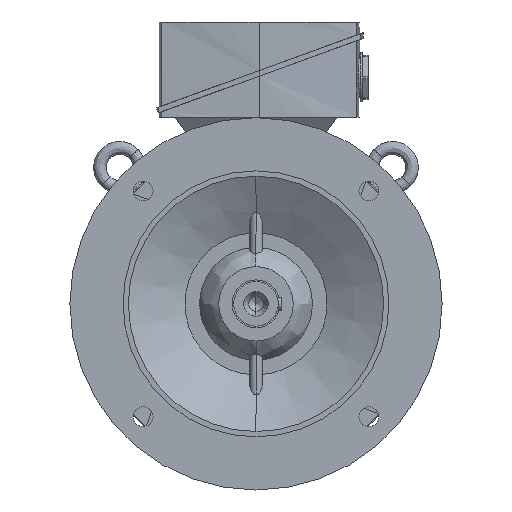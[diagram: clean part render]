
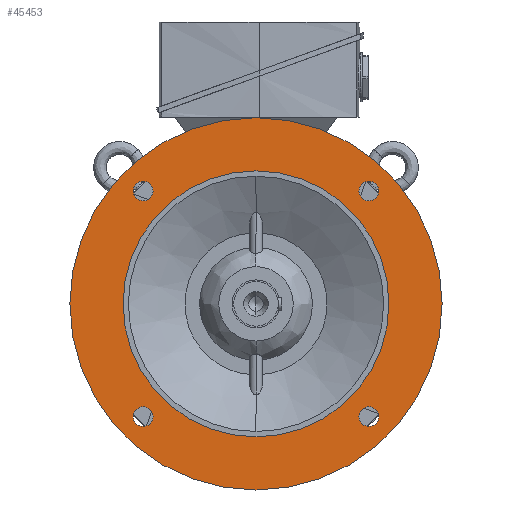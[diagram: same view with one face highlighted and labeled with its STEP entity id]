
A CAD part, left-side view. The second image highlights one B-rep face of the part: STEP entity #45453.
In plain terms, the highlighted planar face has unit normal (-1, 0, 0).
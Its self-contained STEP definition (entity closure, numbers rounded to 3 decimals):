
#351 = EDGE_CURVE ( 'NONE', #6225, #6126, #20072, .T. ) ;
#481 = CARTESIAN_POINT ( 'NONE',  ( -80., 0., -125. ) ) ;
#595 = CARTESIAN_POINT ( 'NONE',  ( -80., 106.066, -106.066 ) ) ;
#882 = CARTESIAN_POINT ( 'NONE',  ( -80., 106.066, -115.316 ) ) ;
#1395 = EDGE_CURVE ( 'NONE', #20599, #29597, #19231, .T. ) ;
#1500 = DIRECTION ( 'NONE',  ( 1., 0., 0. ) ) ;
#1692 = CIRCLE ( 'NONE', #42419, 175. ) ;
#2084 = DIRECTION ( 'NONE',  ( 0., 0., -1. ) ) ;
#2519 = AXIS2_PLACEMENT_3D ( 'NONE', #29867, #29854, #29802 ) ;
#3247 = CARTESIAN_POINT ( 'NONE',  ( -80., 106.066, 96.816 ) ) ;
#3438 = CARTESIAN_POINT ( 'NONE',  ( -80., -106.066, 106.066 ) ) ;
#4192 = DIRECTION ( 'NONE',  ( 1., 0., 0. ) ) ;
#4925 = DIRECTION ( 'NONE',  ( 0., 0., -1. ) ) ;
#6083 = AXIS2_PLACEMENT_3D ( 'NONE', #16109, #16222, #16277 ) ;
#6126 = VERTEX_POINT ( 'NONE', #41562 ) ;
#6146 = EDGE_CURVE ( 'NONE', #30766, #10946, #43114, .T. ) ;
#6225 = VERTEX_POINT ( 'NONE', #33467 ) ;
#6291 = ORIENTED_EDGE ( 'NONE', *, *, #43487, .T. ) ;
#6528 = EDGE_LOOP ( 'NONE', ( #6291, #6894 ) ) ;
#6894 = ORIENTED_EDGE ( 'NONE', *, *, #1395, .T. ) ;
#6948 = ORIENTED_EDGE ( 'NONE', *, *, #41497, .F. ) ;
#7116 = DIRECTION ( 'NONE',  ( 0., 0., 1. ) ) ;
#7133 = DIRECTION ( 'NONE',  ( -1., 0., 0. ) ) ;
#7184 = CARTESIAN_POINT ( 'NONE',  ( -80., 150., 0. ) ) ;
#7637 = ORIENTED_EDGE ( 'NONE', *, *, #351, .F. ) ;
#7723 = ORIENTED_EDGE ( 'NONE', *, *, #12783, .T. ) ;
#7793 = PLANE ( 'NONE',  #19870 ) ;
#8078 = ORIENTED_EDGE ( 'NONE', *, *, #44666, .T. ) ;
#8122 = ORIENTED_EDGE ( 'NONE', *, *, #25081, .T. ) ;
#8167 = ORIENTED_EDGE ( 'NONE', *, *, #24874, .T. ) ;
#8314 = FACE_BOUND ( 'NONE', #15696, .T. ) ;
#8361 = ORIENTED_EDGE ( 'NONE', *, *, #47530, .T. ) ;
#8406 = ORIENTED_EDGE ( 'NONE', *, *, #36170, .T. ) ;
#8425 = FACE_BOUND ( 'NONE', #30265, .T. ) ;
#8502 = FACE_BOUND ( 'NONE', #35381, .T. ) ;
#8688 = FACE_BOUND ( 'NONE', #8770, .T. ) ;
#8725 = FACE_BOUND ( 'NONE', #6528, .T. ) ;
#8770 = EDGE_LOOP ( 'NONE', ( #7723, #8078 ) ) ;
#8921 = ORIENTED_EDGE ( 'NONE', *, *, #13198, .T. ) ;
#9059 = ORIENTED_EDGE ( 'NONE', *, *, #6146, .T. ) ;
#9985 = FACE_OUTER_BOUND ( 'NONE', #22682, .T. ) ;
#10946 = VERTEX_POINT ( 'NONE', #17147 ) ;
#12783 = EDGE_CURVE ( 'NONE', #13188, #38205, #42479, .T. ) ;
#13188 = VERTEX_POINT ( 'NONE', #35049 ) ;
#13198 = EDGE_CURVE ( 'NONE', #10946, #30766, #40088, .T. ) ;
#13861 = CIRCLE ( 'NONE', #42071, 9.25 ) ;
#15696 = EDGE_LOOP ( 'NONE', ( #8921, #9059 ) ) ;
#16109 = CARTESIAN_POINT ( 'NONE',  ( -80., 106.066, -106.066 ) ) ;
#16222 = DIRECTION ( 'NONE',  ( 1., 0., 0. ) ) ;
#16277 = DIRECTION ( 'NONE',  ( 0., 0., -1. ) ) ;
#16345 = CIRCLE ( 'NONE', #42430, 9.25 ) ;
#16842 = AXIS2_PLACEMENT_3D ( 'NONE', #595, #1500, #2084 ) ;
#17147 = CARTESIAN_POINT ( 'NONE',  ( -80., -106.066, -115.316 ) ) ;
#18013 = CARTESIAN_POINT ( 'NONE',  ( -80., 0., 125. ) ) ;
#18255 = VERTEX_POINT ( 'NONE', #18369 ) ;
#18369 = CARTESIAN_POINT ( 'NONE',  ( -80., 106.066, -96.816 ) ) ;
#19231 = CIRCLE ( 'NONE', #2519, 125. ) ;
#19870 = AXIS2_PLACEMENT_3D ( 'NONE', #7184, #7133, #7116 ) ;
#20072 = CIRCLE ( 'NONE', #46675, 175. ) ;
#20526 = CARTESIAN_POINT ( 'NONE',  ( -80., 106.066, 106.066 ) ) ;
#20599 = VERTEX_POINT ( 'NONE', #481 ) ;
#20645 = DIRECTION ( 'NONE',  ( 1., 0., 0. ) ) ;
#20689 = DIRECTION ( 'NONE',  ( 0., 0., -1. ) ) ;
#22007 = VERTEX_POINT ( 'NONE', #37912 ) ;
#22682 = EDGE_LOOP ( 'NONE', ( #6948, #7637 ) ) ;
#23812 = AXIS2_PLACEMENT_3D ( 'NONE', #3438, #4192, #4925 ) ;
#23997 = DIRECTION ( 'NONE',  ( 1., 0., 0. ) ) ;
#24051 = CARTESIAN_POINT ( 'NONE',  ( -80., -106.066, 106.066 ) ) ;
#24197 = DIRECTION ( 'NONE',  ( 0., 0., -1. ) ) ;
#24458 = AXIS2_PLACEMENT_3D ( 'NONE', #34476, #34428, #34322 ) ;
#24874 = EDGE_CURVE ( 'NONE', #22007, #46283, #16345, .T. ) ;
#25081 = EDGE_CURVE ( 'NONE', #46283, #22007, #13861, .T. ) ;
#25107 = CIRCLE ( 'NONE', #6083, 9.25 ) ;
#28611 = AXIS2_PLACEMENT_3D ( 'NONE', #24051, #23997, #24197 ) ;
#29313 = CARTESIAN_POINT ( 'NONE',  ( -80., 106.066, 106.066 ) ) ;
#29597 = VERTEX_POINT ( 'NONE', #18013 ) ;
#29802 = DIRECTION ( 'NONE',  ( 0., 0., 1. ) ) ;
#29854 = DIRECTION ( 'NONE',  ( 1., 0., 0. ) ) ;
#29867 = CARTESIAN_POINT ( 'NONE',  ( -80., 0., 0. ) ) ;
#30265 = EDGE_LOOP ( 'NONE', ( #8361, #8406 ) ) ;
#30766 = VERTEX_POINT ( 'NONE', #45190 ) ;
#31069 = CIRCLE ( 'NONE', #32440, 125. ) ;
#32232 = CARTESIAN_POINT ( 'NONE',  ( -80., 0., 0. ) ) ;
#32280 = DIRECTION ( 'NONE',  ( 1., 0., 0. ) ) ;
#32287 = DIRECTION ( 'NONE',  ( 0., 0., 1. ) ) ;
#32440 = AXIS2_PLACEMENT_3D ( 'NONE', #36241, #36203, #36187 ) ;
#33467 = CARTESIAN_POINT ( 'NONE',  ( -80., 0., -175. ) ) ;
#34322 = DIRECTION ( 'NONE',  ( 0., 0., -1. ) ) ;
#34428 = DIRECTION ( 'NONE',  ( 1., 0., 0. ) ) ;
#34476 = CARTESIAN_POINT ( 'NONE',  ( -80., -106.066, -106.066 ) ) ;
#35049 = CARTESIAN_POINT ( 'NONE',  ( -80., -106.066, 96.816 ) ) ;
#35381 = EDGE_LOOP ( 'NONE', ( #8122, #8167 ) ) ;
#36170 = EDGE_CURVE ( 'NONE', #18255, #47386, #36967, .T. ) ;
#36187 = DIRECTION ( 'NONE',  ( 0., 0., 1. ) ) ;
#36203 = DIRECTION ( 'NONE',  ( 1., 0., 0. ) ) ;
#36241 = CARTESIAN_POINT ( 'NONE',  ( -80., 0., 0. ) ) ;
#36717 = DIRECTION ( 'NONE',  ( 1., 0., 0. ) ) ;
#36780 = DIRECTION ( 'NONE',  ( 0., 0., -1. ) ) ;
#36967 = CIRCLE ( 'NONE', #16842, 9.25 ) ;
#37698 = DIRECTION ( 'NONE',  ( 0., 0., -1. ) ) ;
#37744 = DIRECTION ( 'NONE',  ( 1., 0., 0. ) ) ;
#37784 = CARTESIAN_POINT ( 'NONE',  ( -80., -106.066, -106.066 ) ) ;
#37912 = CARTESIAN_POINT ( 'NONE',  ( -80., 106.066, 115.316 ) ) ;
#38205 = VERTEX_POINT ( 'NONE', #42620 ) ;
#40088 = CIRCLE ( 'NONE', #24458, 9.25 ) ;
#41497 = EDGE_CURVE ( 'NONE', #6126, #6225, #1692, .T. ) ;
#41562 = CARTESIAN_POINT ( 'NONE',  ( -80., 0., 175. ) ) ;
#41761 = AXIS2_PLACEMENT_3D ( 'NONE', #37784, #37744, #37698 ) ;
#42071 = AXIS2_PLACEMENT_3D ( 'NONE', #29313, #36717, #36780 ) ;
#42419 = AXIS2_PLACEMENT_3D ( 'NONE', #44405, #44354, #44289 ) ;
#42430 = AXIS2_PLACEMENT_3D ( 'NONE', #20526, #20645, #20689 ) ;
#42479 = CIRCLE ( 'NONE', #28611, 9.25 ) ;
#42620 = CARTESIAN_POINT ( 'NONE',  ( -80., -106.066, 115.316 ) ) ;
#43114 = CIRCLE ( 'NONE', #41761, 9.25 ) ;
#43487 = EDGE_CURVE ( 'NONE', #29597, #20599, #31069, .T. ) ;
#44289 = DIRECTION ( 'NONE',  ( 0., 0., 1. ) ) ;
#44354 = DIRECTION ( 'NONE',  ( 1., 0., 0. ) ) ;
#44405 = CARTESIAN_POINT ( 'NONE',  ( -80., 0., 0. ) ) ;
#44666 = EDGE_CURVE ( 'NONE', #38205, #13188, #45354, .T. ) ;
#45190 = CARTESIAN_POINT ( 'NONE',  ( -80., -106.066, -96.816 ) ) ;
#45354 = CIRCLE ( 'NONE', #23812, 9.25 ) ;
#45453 = ADVANCED_FACE ( 'NONE', ( #8725, #9985, #8688, #8502, #8425, #8314 ), #7793, .T. ) ;
#46283 = VERTEX_POINT ( 'NONE', #3247 ) ;
#46675 = AXIS2_PLACEMENT_3D ( 'NONE', #32232, #32280, #32287 ) ;
#47386 = VERTEX_POINT ( 'NONE', #882 ) ;
#47530 = EDGE_CURVE ( 'NONE', #47386, #18255, #25107, .T. ) ;
